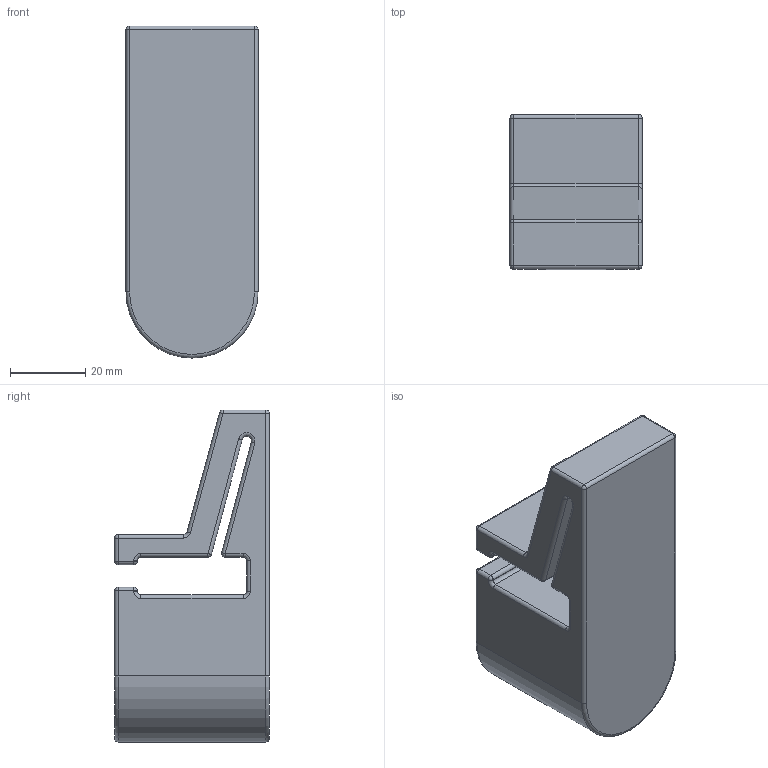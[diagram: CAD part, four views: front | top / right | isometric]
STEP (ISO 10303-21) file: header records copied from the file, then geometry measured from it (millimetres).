
FILE_DESCRIPTION(/* description */ (''),/* implementation_level */ '2;1');
FILE_NAME(/* name */ 'Shower bumper.step',/* time_stamp */ '2023-07-04T15:46:33-07:00',/* author */ (''),/* organization */ (''),/* preprocessor_version */ 'ST-DEVELOPER v19.2',/* originating_system */ 'Autodesk Translation Framework v12.6.0.85',/* authorisation */ '');
FILE_SCHEMA (('AUTOMOTIVE_DESIGN { 1 0 10303 214 3 1 1 }'));
Length unit declared in the file: millimetre
Products named in the file (1): Shower bumper
Bounding box: 35 x 41 x 88 mm (x, y, z)
Volume: 79292.1 mm3; surface area: 17243.1 mm2
Topology: 1 solids, 1 shells, 98 faces, 206 edges, 110 vertices
Faces by surface type: cylinder 48, sphere 18, plane 18, torus 14
Entity records: 2597 total; most frequent: DIRECTION 514, CARTESIAN_POINT 415, ORIENTED_EDGE 412, AXIS2_PLACEMENT_3D 209, EDGE_CURVE 206, CIRCLE 110, VERTEX_POINT 110, FACE_OUTER_BOUND 98
